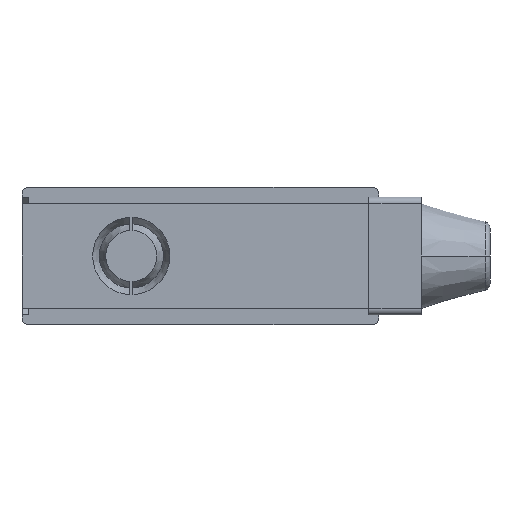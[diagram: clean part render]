
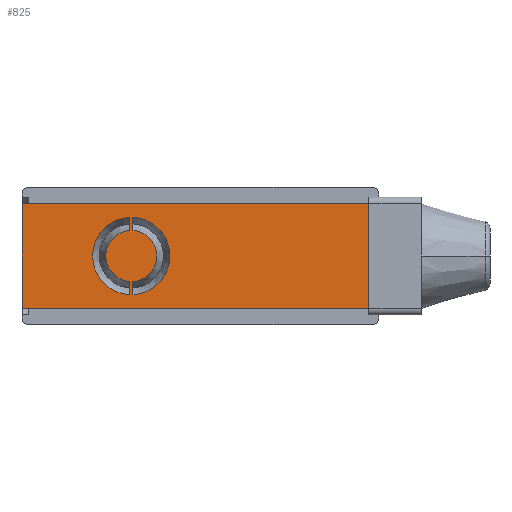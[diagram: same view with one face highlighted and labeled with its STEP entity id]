
A CAD part, front view. The second image highlights one B-rep face of the part: STEP entity #825.
In plain terms, the highlighted planar face has unit normal (0, -1, 0).
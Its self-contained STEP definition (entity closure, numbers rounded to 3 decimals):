
#241 = EDGE_CURVE ( 'NONE', #7995, #8000, #2242, .T. ) ;
#278 = EDGE_CURVE ( 'NONE', #8008, #8007, #958, .T. ) ;
#284 = EDGE_CURVE ( 'NONE', #8012, #8010, #960, .T. ) ;
#291 = EDGE_CURVE ( 'NONE', #8000, #7952, #9705, .T. ) ;
#531 = EDGE_CURVE ( 'NONE', #7995, #7955, #9533, .T. ) ;
#564 = EDGE_CURVE ( 'NONE', #7955, #7952, #9632, .T. ) ;
#631 = EDGE_CURVE ( 'NONE', #7901, #7903, #1087, .T. ) ;
#632 = EDGE_CURVE ( 'NONE', #7899, #7900, #1088, .T. ) ;
#635 = EDGE_CURVE ( 'NONE', #8007, #8010, #6186, .T. ) ;
#636 = EDGE_CURVE ( 'NONE', #8012, #8008, #6189, .T. ) ;
#637 = EDGE_CURVE ( 'NONE', #7900, #7903, #6192, .T. ) ;
#638 = EDGE_CURVE ( 'NONE', #7901, #7899, #6195, .T. ) ;
#825 = ADVANCED_FACE ( 'NONE', ( #3719, #3347, #3352 ), #6873, .F. ) ;
#958 = CIRCLE ( 'NONE', #4297, 3.9 ) ;
#960 = CIRCLE ( 'NONE', #4255, 5.9 ) ;
#1087 = CIRCLE ( 'NONE', #4494, 5.9 ) ;
#1088 = CIRCLE ( 'NONE', #4616, 3.9 ) ;
#2242 = LINE ( 'NONE', #2243, #4063 ) ;
#2243 = CARTESIAN_POINT ( 'NONE',  ( 27.25, -19.6, 7.95 ) ) ;
#2244 = DIRECTION ( 'NONE',  ( 0., 0., -1. ) ) ;
#2386 = EDGE_LOOP ( 'NONE', ( #2780, #2781, #2778, #2783 ) ) ;
#2387 = EDGE_LOOP ( 'NONE', ( #2784, #2785, #2786, #2782 ) ) ;
#2775 = ORIENTED_EDGE ( 'NONE', *, *, #636, .T. ) ;
#2776 = ORIENTED_EDGE ( 'NONE', *, *, #635, .T. ) ;
#2777 = ORIENTED_EDGE ( 'NONE', *, *, #284, .F. ) ;
#2778 = ORIENTED_EDGE ( 'NONE', *, *, #638, .T. ) ;
#2779 = ORIENTED_EDGE ( 'NONE', *, *, #278, .T. ) ;
#2780 = ORIENTED_EDGE ( 'NONE', *, *, #637, .T. ) ;
#2781 = ORIENTED_EDGE ( 'NONE', *, *, #631, .F. ) ;
#2782 = ORIENTED_EDGE ( 'NONE', *, *, #531, .T. ) ;
#2783 = ORIENTED_EDGE ( 'NONE', *, *, #632, .T. ) ;
#2784 = ORIENTED_EDGE ( 'NONE', *, *, #564, .T. ) ;
#2785 = ORIENTED_EDGE ( 'NONE', *, *, #291, .F. ) ;
#2786 = ORIENTED_EDGE ( 'NONE', *, *, #241, .F. ) ;
#3257 = EDGE_LOOP ( 'NONE', ( #2776, #2777, #2775, #2779 ) ) ;
#3347 = FACE_BOUND ( 'NONE', #2386, .T. ) ;
#3352 = FACE_OUTER_BOUND ( 'NONE', #2387, .T. ) ;
#3719 = FACE_BOUND ( 'NONE', #3257, .T. ) ;
#3782 = VECTOR ( 'NONE', #6197, 1000. ) ;
#3846 = AXIS2_PLACEMENT_3D ( 'NONE', #6874, #6875, #6876 ) ;
#3919 = VECTOR ( 'NONE', #6194, 1000. ) ;
#4063 = VECTOR ( 'NONE', #2244, 1000. ) ;
#4255 = AXIS2_PLACEMENT_3D ( 'NONE', #9683, #9684, #9685 ) ;
#4270 = VECTOR ( 'NONE', #9707, 1000. ) ;
#4297 = AXIS2_PLACEMENT_3D ( 'NONE', #9655, #9656, #9657 ) ;
#4349 = VECTOR ( 'NONE', #9535, 1000. ) ;
#4387 = VECTOR ( 'NONE', #9634, 1000. ) ;
#4427 = VECTOR ( 'NONE', #6188, 1000. ) ;
#4494 = AXIS2_PLACEMENT_3D ( 'NONE', #6168, #6169, #6170 ) ;
#4584 = VECTOR ( 'NONE', #6191, 1000. ) ;
#4616 = AXIS2_PLACEMENT_3D ( 'NONE', #6171, #6172, #6173 ) ;
#6168 = CARTESIAN_POINT ( 'NONE',  ( -10.55, -19.6, 0. ) ) ;
#6169 = DIRECTION ( 'NONE',  ( 0., -1., 0. ) ) ;
#6170 = DIRECTION ( 'NONE',  ( 0., 0., -1. ) ) ;
#6171 = CARTESIAN_POINT ( 'NONE',  ( -10.55, -19.6, 0. ) ) ;
#6172 = DIRECTION ( 'NONE',  ( 0., -1., 0. ) ) ;
#6173 = DIRECTION ( 'NONE',  ( 0., 0., -1. ) ) ;
#6186 = LINE ( 'NONE', #6187, #4427 ) ;
#6187 = CARTESIAN_POINT ( 'NONE',  ( -10.3, -19.6, -5.9 ) ) ;
#6188 = DIRECTION ( 'NONE',  ( 0., 0., 1. ) ) ;
#6189 = LINE ( 'NONE', #6190, #4584 ) ;
#6190 = CARTESIAN_POINT ( 'NONE',  ( -10.3, -19.6, -5.9 ) ) ;
#6191 = DIRECTION ( 'NONE',  ( 0., 0., 1. ) ) ;
#6192 = LINE ( 'NONE', #6193, #3919 ) ;
#6193 = CARTESIAN_POINT ( 'NONE',  ( -10.8, -19.6, -5.9 ) ) ;
#6194 = DIRECTION ( 'NONE',  ( 0., 0., -1. ) ) ;
#6195 = LINE ( 'NONE', #6196, #3782 ) ;
#6196 = CARTESIAN_POINT ( 'NONE',  ( -10.8, -19.6, -5.9 ) ) ;
#6197 = DIRECTION ( 'NONE',  ( 0., 0., -1. ) ) ;
#6873 = PLANE ( 'NONE',  #3846 ) ;
#6874 = CARTESIAN_POINT ( 'NONE',  ( 27.25, -19.6, 7.95 ) ) ;
#6875 = DIRECTION ( 'NONE',  ( 0., 1., 0. ) ) ;
#6876 = DIRECTION ( 'NONE',  ( 0., 0., 1. ) ) ;
#7038 = CARTESIAN_POINT ( 'NONE',  ( -10.8, -19.6, 3.892 ) ) ;
#7039 = CARTESIAN_POINT ( 'NONE',  ( -10.8, -19.6, -3.892 ) ) ;
#7040 = CARTESIAN_POINT ( 'NONE',  ( -10.8, -19.6, 5.895 ) ) ;
#7042 = CARTESIAN_POINT ( 'NONE',  ( -10.8, -19.6, -5.895 ) ) ;
#7091 = CARTESIAN_POINT ( 'NONE',  ( -27.25, -19.6, -7.95 ) ) ;
#7094 = CARTESIAN_POINT ( 'NONE',  ( -27.25, -19.6, 7.95 ) ) ;
#7134 = CARTESIAN_POINT ( 'NONE',  ( 27.25, -19.6, 7.95 ) ) ;
#7139 = CARTESIAN_POINT ( 'NONE',  ( 27.25, -19.6, -7.95 ) ) ;
#7146 = CARTESIAN_POINT ( 'NONE',  ( -10.3, -19.6, 3.892 ) ) ;
#7147 = CARTESIAN_POINT ( 'NONE',  ( -10.3, -19.6, -3.892 ) ) ;
#7149 = CARTESIAN_POINT ( 'NONE',  ( -10.3, -19.6, 5.895 ) ) ;
#7151 = CARTESIAN_POINT ( 'NONE',  ( -10.3, -19.6, -5.895 ) ) ;
#7899 = VERTEX_POINT ( 'NONE', #7038 ) ;
#7900 = VERTEX_POINT ( 'NONE', #7039 ) ;
#7901 = VERTEX_POINT ( 'NONE', #7040 ) ;
#7903 = VERTEX_POINT ( 'NONE', #7042 ) ;
#7952 = VERTEX_POINT ( 'NONE', #7091 ) ;
#7955 = VERTEX_POINT ( 'NONE', #7094 ) ;
#7995 = VERTEX_POINT ( 'NONE', #7134 ) ;
#8000 = VERTEX_POINT ( 'NONE', #7139 ) ;
#8007 = VERTEX_POINT ( 'NONE', #7146 ) ;
#8008 = VERTEX_POINT ( 'NONE', #7147 ) ;
#8010 = VERTEX_POINT ( 'NONE', #7149 ) ;
#8012 = VERTEX_POINT ( 'NONE', #7151 ) ;
#9533 = LINE ( 'NONE', #9534, #4349 ) ;
#9534 = CARTESIAN_POINT ( 'NONE',  ( 27.25, -19.6, 7.95 ) ) ;
#9535 = DIRECTION ( 'NONE',  ( -1., 0., 0. ) ) ;
#9632 = LINE ( 'NONE', #9633, #4387 ) ;
#9633 = CARTESIAN_POINT ( 'NONE',  ( -27.25, -19.6, 7.95 ) ) ;
#9634 = DIRECTION ( 'NONE',  ( 0., 0., -1. ) ) ;
#9655 = CARTESIAN_POINT ( 'NONE',  ( -10.55, -19.6, 0. ) ) ;
#9656 = DIRECTION ( 'NONE',  ( 0., -1., 0. ) ) ;
#9657 = DIRECTION ( 'NONE',  ( 0., 0., -1. ) ) ;
#9683 = CARTESIAN_POINT ( 'NONE',  ( -10.55, -19.6, 0. ) ) ;
#9684 = DIRECTION ( 'NONE',  ( 0., -1., 0. ) ) ;
#9685 = DIRECTION ( 'NONE',  ( 0., 0., -1. ) ) ;
#9705 = LINE ( 'NONE', #9706, #4270 ) ;
#9706 = CARTESIAN_POINT ( 'NONE',  ( 27.25, -19.6, -7.95 ) ) ;
#9707 = DIRECTION ( 'NONE',  ( -1., 0., 0. ) ) ;
